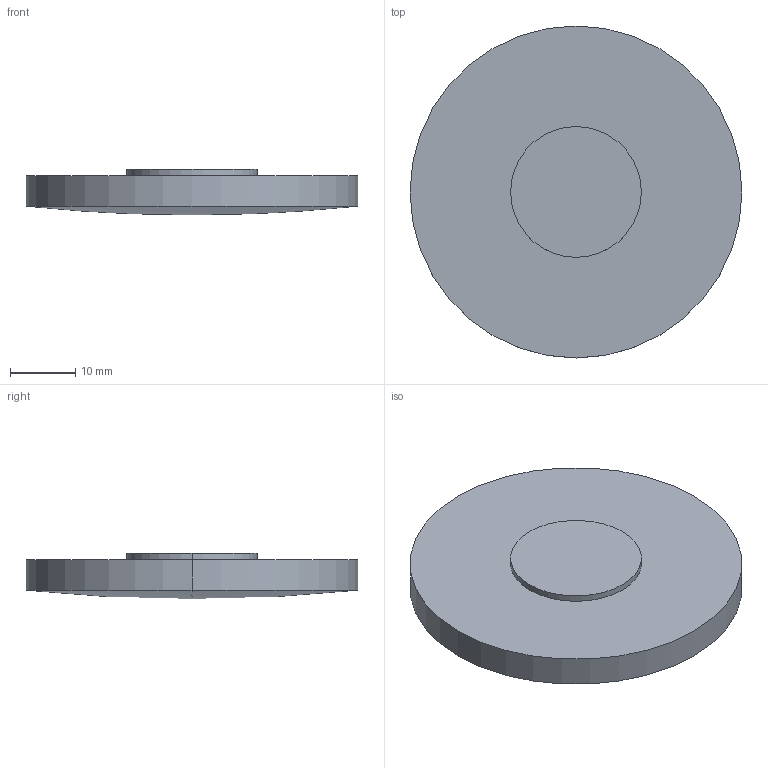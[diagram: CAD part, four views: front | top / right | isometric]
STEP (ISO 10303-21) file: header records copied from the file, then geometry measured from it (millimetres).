
FILE_DESCRIPTION(('STEP AP214'),'1');
FILE_NAME('LLF-51610.STEP','2020-03-09T17:41:32',(' '),(' '),'Spatial InterOp 3D',' ',' ');
FILE_SCHEMA(('AUTOMOTIVE_DESIGN { 1 0 10303 214 1 1 1 1 }'));
Length unit declared in the file: millimetre
Products named in the file (1): 1
Bounding box: 50.8 x 50.8 x 7 mm (x, y, z)
Volume: 11139.3 mm3; surface area: 5497.3 mm2
Topology: 2 solids, 2 shells, 9 faces, 16 edges, 9 vertices
Faces by surface type: cylinder 4, plane 3, sphere 2
Entity records: 229 total; most frequent: DIRECTION 46, CARTESIAN_POINT 34, ORIENTED_EDGE 28, AXIS2_PLACEMENT_3D 21, EDGE_CURVE 14, CIRCLE 10, ADVANCED_FACE 9, FACE_OUTER_BOUND 9
